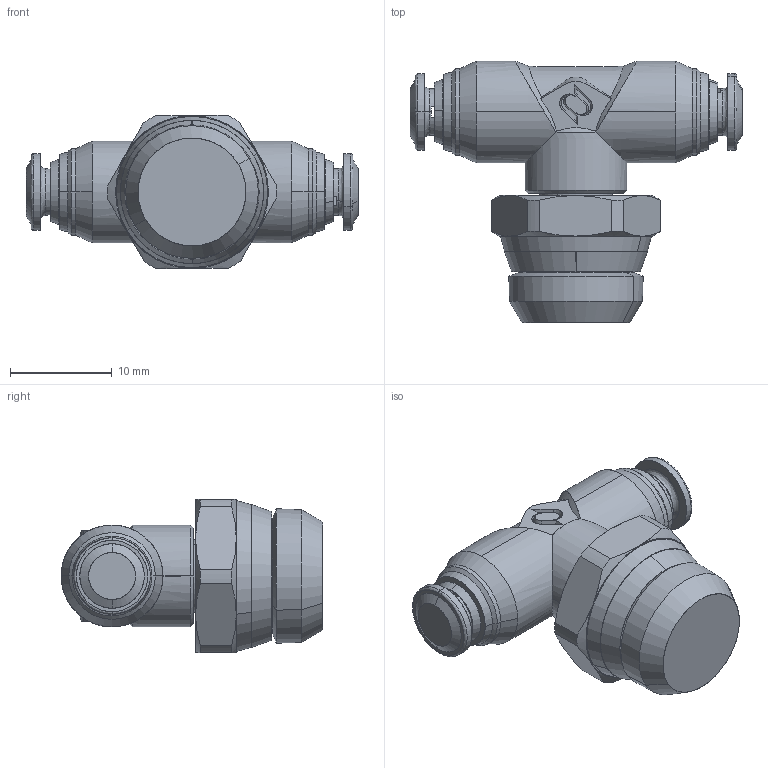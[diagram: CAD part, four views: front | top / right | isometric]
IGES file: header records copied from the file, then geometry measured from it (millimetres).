
Start section: SolidWorks IGES file using analytic representation for surfaces
Global section: file name: K:\Disegni Esecutivi\ALPHA TECHNOLOGIES\Assiemi-89000\89211\89211_iges\8921100002A.igs; native system: SolidWorks 2011; preprocessor: SolidWorks 2011; author: cad05; date: 110217.104142; units: millimetre
Bounding box: 32.6 x 25.7 x 15.06 mm (x, y, z)
Surface area: 2156.1 mm2 (no closed solid volume)
Topology: 0 solids, 0 shells, 161 faces, 2218 edges, 2218 vertices
Faces by surface type: revolution 91, bspline 70
